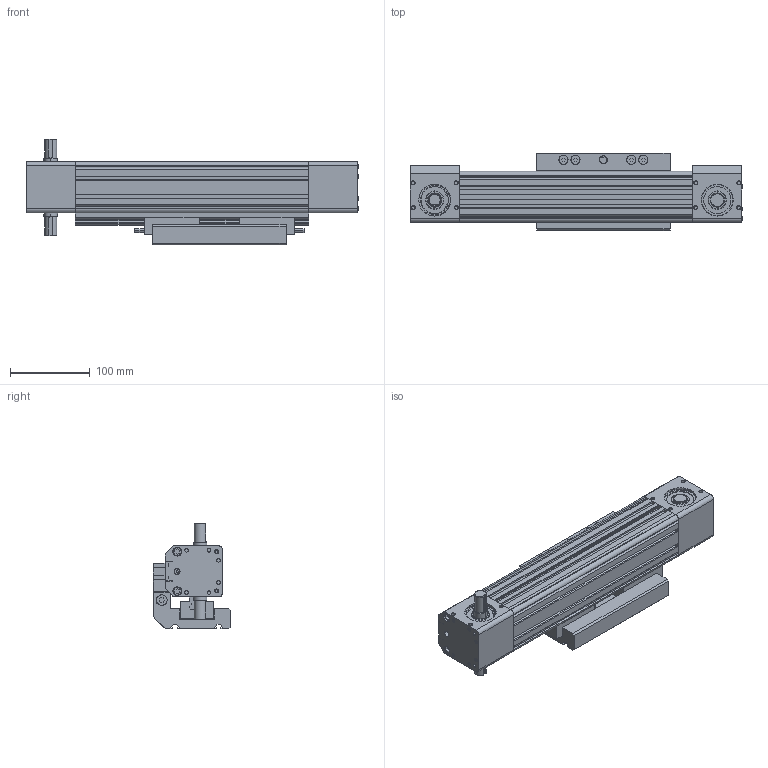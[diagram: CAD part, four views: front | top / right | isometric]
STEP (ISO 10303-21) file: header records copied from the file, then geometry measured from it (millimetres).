
FILE_DESCRIPTION((''),'2;1');
FILE_NAME('TCDH65-S50','2018-02-03T',('lenovo'),(''),'PRO/ENGINEER BY PARAMETRIC TECHNOLOGY CORPORATION, 2010280','PRO/ENGINEER BY PARAMETRIC TECHNOLOGY CORPORATION, 2010280','');
FILE_SCHEMA(('CONFIG_CONTROL_DESIGN'));
Products named in the file (1): TCDH65-S50
Bounding box: 416 x 96.5 x 132.5 mm (x, y, z)
Surface area: 467166.5 mm2 (no closed solid volume)
Topology: 0 solids, 30 shells, 2213 faces, 5853 edges, 3826 vertices
Faces by surface type: plane 1121, cylinder 810, cone 230, torus 52
Entity records: 69736 total; most frequent: CARTESIAN_POINT 12944, DIRECTION 12245, ORIENTED_EDGE 11654, EDGE_CURVE 5853, AXIS2_PLACEMENT_3D 4351, VERTEX_POINT 3826, VECTOR 3543, LINE 3543
